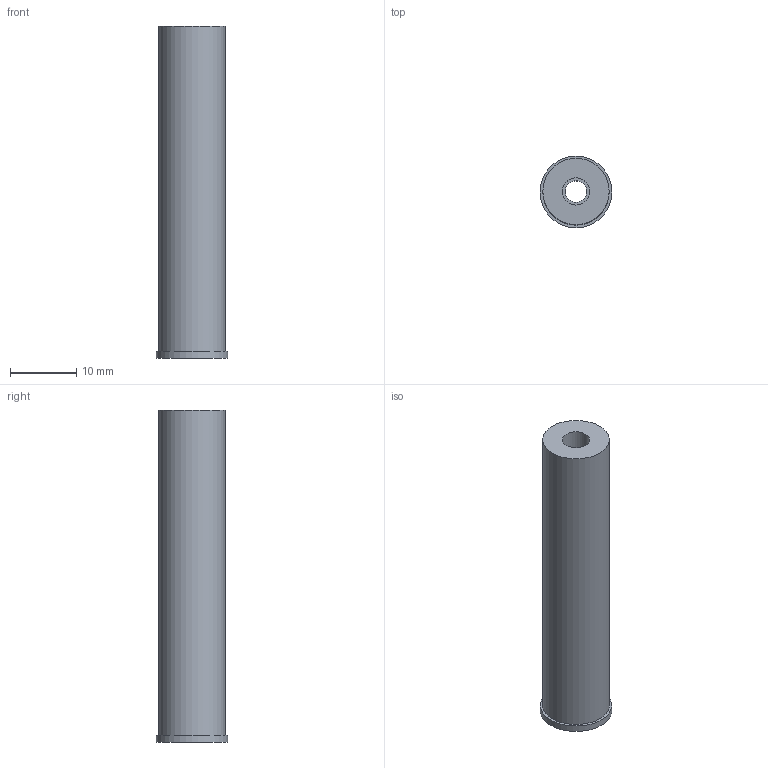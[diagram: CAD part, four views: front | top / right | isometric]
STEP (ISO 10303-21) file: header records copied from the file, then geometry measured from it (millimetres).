
FILE_DESCRIPTION(('Open CASCADE Model'),'2;1');
FILE_NAME('Open CASCADE Shape Model','2026-10-21T12:47:56',('Author'),( 'Open CASCADE'),'Open CASCADE STEP processor 7.9','Open CASCADE 7.9' ,'Unknown');
FILE_SCHEMA(('AUTOMOTIVE_DESIGN { 1 0 10303 214 1 1 1 1 }'));
Length unit declared in the file: millimetre
Products named in the file (1): Open CASCADE STEP translator 7.9 11
Bounding box: 10.8 x 10.8 x 50 mm (x, y, z)
Volume: 3484.5 mm3; surface area: 2272.9 mm2
Topology: 1 solids, 1 shells, 8 faces, 12 edges, 8 vertices
Faces by surface type: cylinder 4, plane 4
Full cylindrical faces by diameter (mm): 3.3 x1, 4.1 x1, 10 x1, 10.8 x1
Entity records: 354 total; most frequent: DIRECTION 62, CARTESIAN_POINT 53, ORIENTED_EDGE 24, PCURVE 24, DEFINITIONAL_REPRESENTATION 24, LINE 20, VECTOR 20, AXIS2_PLACEMENT_3D 17
